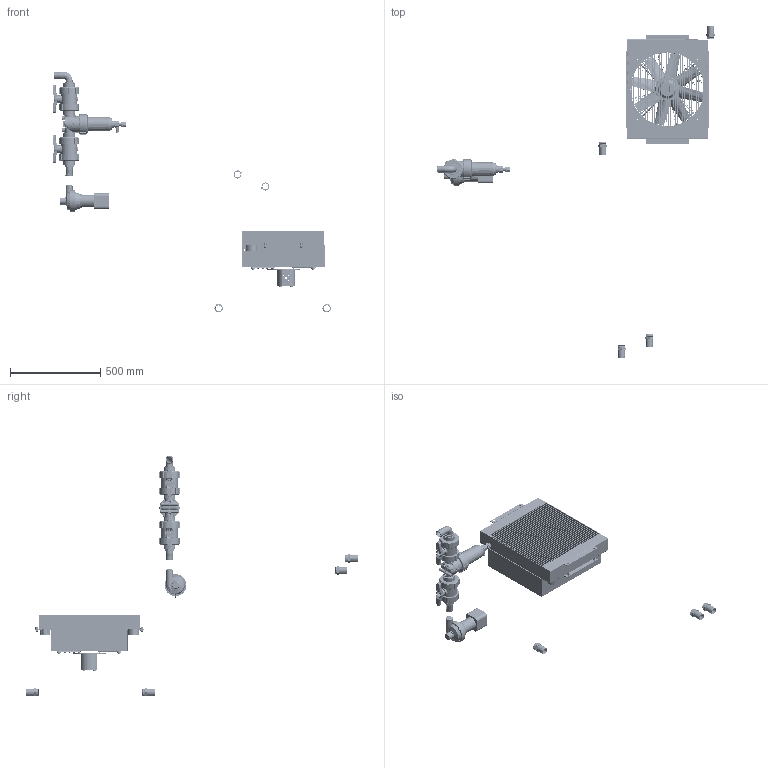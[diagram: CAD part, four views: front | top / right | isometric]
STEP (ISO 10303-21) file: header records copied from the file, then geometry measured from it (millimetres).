
FILE_DESCRIPTION(/* description */ (''),/* implementation_level */ '2;1');
FILE_NAME(/* name */ '1638078.stp',/* time_stamp */ '2025-04-23T13:05:48+02:00',/* author */ ('JJ'),/* organization */ (''),/* preprocessor_version */ 'ST-DEVELOPER v20',/* originating_system */ 'Autodesk Inventor 2025',/* authorisation */ '');
FILE_SCHEMA (('AUTOMOTIVE_DESIGN { 1 0 10303 214 3 1 1 }'));
Products named in the file (10): 1638078; 962000075; 944600346; 944600344; 944600345; 944600347; 944600348; 944600349; 925000888; 4043447-3D
Assembly tree (19 placements, depth 2):
  1638078
    925000888  x4
    962000075
    944600346  x2
    944600344
    944600345
    944600347  x4
    944600348
    944600349  x4
    4043447-3D
Bounding box: 1539.17 x 1834.73 x 1329.28 mm (x, y, z)
Volume: 5661703.3 mm3; surface area: 5327231.4 mm2
Topology: 51 solids, 236 shells, 4366 faces, 11967 edges, 8017 vertices
Faces by surface type: plane 2127, cylinder 942, bspline 613, cone 382, torus 266, sphere 36
Full cylindrical faces by diameter (mm): 1.28 x2, 3 x9, 3.1 x1, 4 x3, 5 x8, 5.5 x1, 6 x20, 6.647 x2, 6.8 x12, 8 x30, 8.5 x2, 9.5 x1, 10 x6, 10.8 x1, 11.3 x2, 11.445 x2, 11.5 x1, 12 x7, 13 x8, 13.5 x4, 14 x1, 15 x1, 17 x4, 18 x4, 18.1 x4, 18.5 x1, 18.63 x1, 18.631 x2, 19 x2, 20 x1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
Entity records: 158667 total; most frequent: CARTESIAN_POINT 77465, ORIENTED_EDGE 16037, DIRECTION 15140, EDGE_CURVE 8940, VERTEX_POINT 6095, AXIS2_PLACEMENT_3D 5130, LINE 4880, VECTOR 4880
